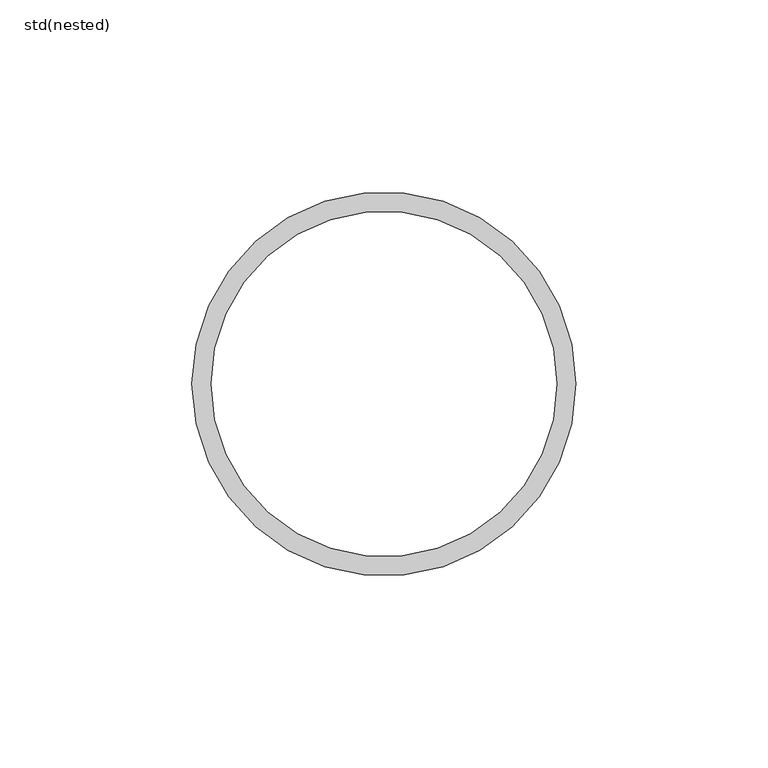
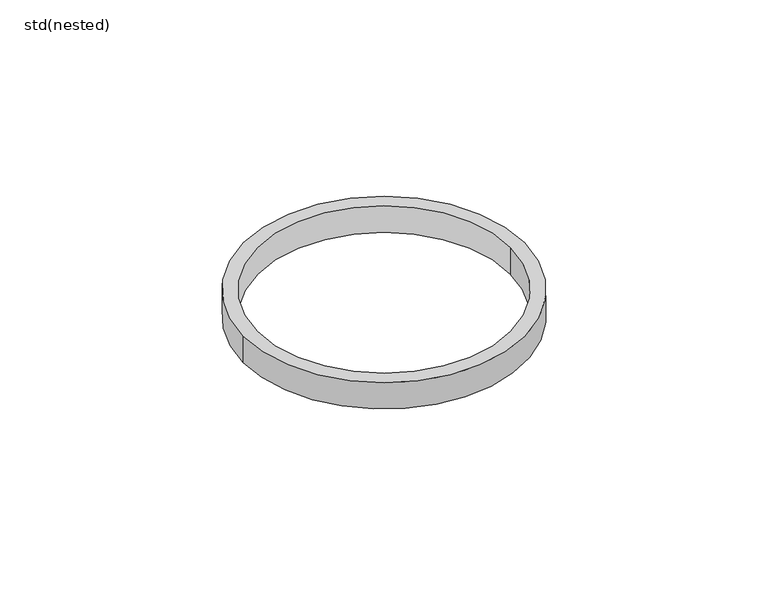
"""IFC4 building model written with IfcOpenShell, lengths in millimetres: pipe fitting geometry, ZZZ_do not use_ME_ST_WPB_sealing sleeve_ACO : std(nested)."""

from ifc_helpers import new_model, si_unit, point, origin, origin_with_axes, origin_2d, place, context, project, spatial, circle_curve, trimmed, segment, composite_curve, outline, extrude, source, transform, mapped, element, save


def std_nested_ca1f84b6(model_context):
    return source(origin(), model_context, "Body", "SweptSolid", [
        extrude(outline(composite_curve([segment(trimmed(circle_curve(origin_2d(), 50.0), [point((-50.0, 0.0))], [point((50.0, 0.0))], False, "CARTESIAN"), True, "CONTINUOUS"), segment(trimmed(circle_curve(origin_2d(), 50.0), [point((50.0, 0.0))], [point((-50.0, 0.0))], False, "CARTESIAN"), True, "CONTINUOUS")], self_intersect=False), holes=[composite_curve([segment(trimmed(circle_curve(origin_2d(), 45.0), [point((-45.0, 0.0))], [point((45.0, 0.0))], True, "CARTESIAN"), True, "CONTINUOUS"), segment(trimmed(circle_curve(origin_2d(), 45.0), [point((45.0, 0.0))], [point((-45.0, 0.0))], True, "CARTESIAN"), True, "CONTINUOUS")], self_intersect=False)]), origin_with_axes(), (0.0, 0.0, 1.0), 10.0),
    ])


if __name__ == "__main__":
    model = new_model("IFC4")
    model_context = context("Model", 3, world=origin())
    ifc_project = project(units=[si_unit("LENGTHUNIT", "METRE", prefix="MILLI")], contexts=[model_context])
    site = spatial("IfcSite", under=ifc_project)
    building = spatial("IfcBuilding", under=site)
    placement = place(None, origin())
    std_nested_shape = std_nested_ca1f84b6(model_context)
    element("IfcPipeFitting", 1, ObjectType="ZZZ_do not use_ME_ST_WPB_sealing sleeve_ACO : std(nested)", at=placement, inside=building, context=model_context, shape_type="MappedRepresentation", body=[
        mapped(std_nested_shape, transform((0.0, 0.0, 0.0), x_axis=(1.0, 0.0, 0.0), y_axis=(0.0, 1.0, 0.0), z_axis=(0.0, 0.0, 1.0))),
    ])
    save(model, "model.ifc")
